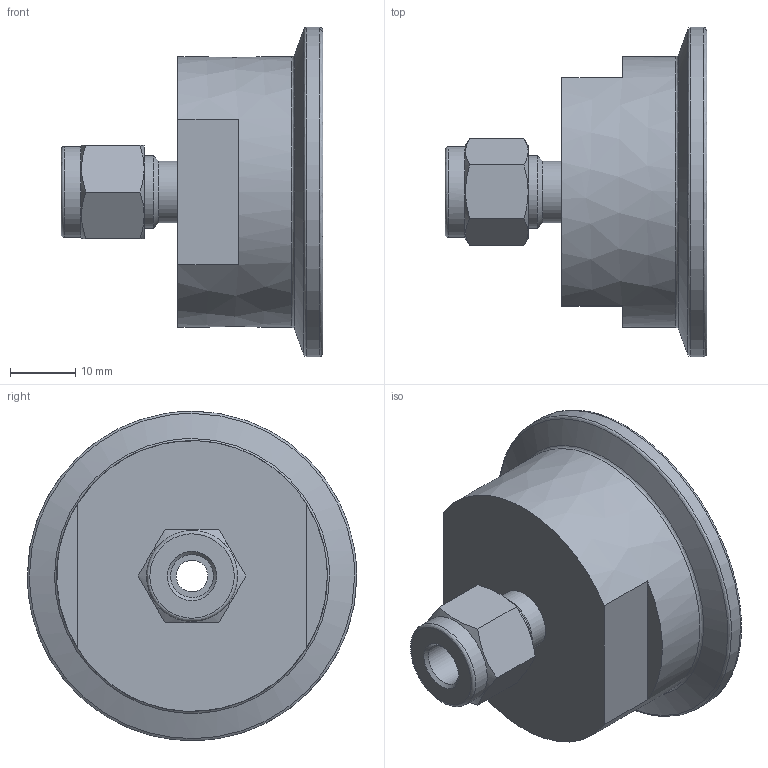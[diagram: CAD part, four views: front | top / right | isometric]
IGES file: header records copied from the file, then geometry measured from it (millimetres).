
Global section: file name: SSFA-4-24SA; native system: Autodesk Inventor 2016; preprocessor: unknown; author: DESIGNPC2; date: 20160312.144135; units: millimetre
Bounding box: 40.04 x 50.4 x 50.39 mm (x, y, z)
Volume: 27185.8 mm3; surface area: 8668.3 mm2
Topology: 1 solids, 1 shells, 44 faces, 128 edges, 90 vertices
Faces by surface type: bspline 44
